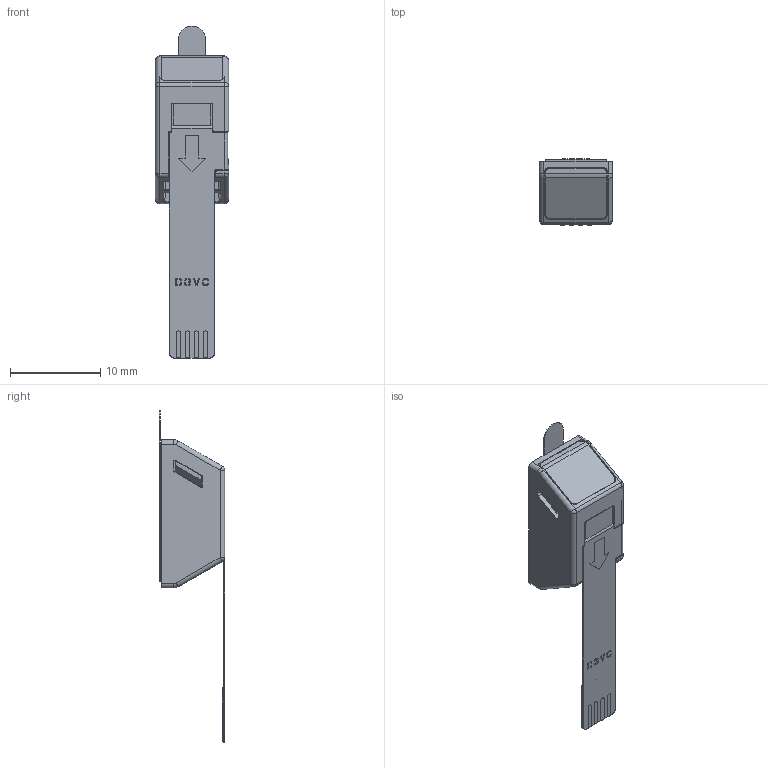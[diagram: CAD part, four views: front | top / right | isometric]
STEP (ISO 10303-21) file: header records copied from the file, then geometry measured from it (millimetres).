
FILE_DESCRIPTION((''),'2;1');
FILE_NAME('SOUNDSKIRT_MIC_ASM_ASM','2026-08-27T11:12:38',('ts'),(''),'CREO PARAMETRIC BY PTC INC, 2026092','CREO PARAMETRIC BY PTC INC, 2026092','');
FILE_SCHEMA(('AUTOMOTIVE_DESIGN { 1 0 10303 214 1 1 1 1 }'));
Products named in the file (19): SOUNDSKIRT_MIC_GASKET_711; SOUNDSKIRT_MIC_SILICON_202; SOUNDSKIRT_MIC_FPCA_FPC_108_1; SOUNDSKIRT_MIC_FPCA_FPC_108_2; SOUNDSKIRT_MIC_FPCA_FPC_108_ASM; SOUNDSKIRT_MIC_FPCA_MEMS_1_9; SOUNDSKIRT_MIC_FPCA_MEMS_2_20; SOUNDSKIRT_MIC_FPCA_SUS301_1_1; SOUNDSKIRT_MIC_FPCA_SUS301_2_1; SOUNDSKIRT_MIC_FPCA_SUS301_3_10; SOUNDSKIRT_MIC_FPCA_0402_1; SOUNDSKIRT_MIC_FPCA_BJ_1_1; SOUNDSKIRT_MIC_FPCA_ASM_60_ASM; SOUNDSKIRT_MIC_BJ_BJ_1; SOUNDSKIRT_MIC_BJ_TYW_1; SOUNDSKIRT_MIC_BJ_LXZ_5; SOUNDSKIRT_MIC_BJ_ASM_3_ASM; DIANPIAN; SOUNDSKIRT_MIC_ASM_ASM
Assembly tree (19 placements, depth 4):
  SOUNDSKIRT_MIC_ASM_ASM
    SOUNDSKIRT_MIC_GASKET_711
    SOUNDSKIRT_MIC_SILICON_202
    SOUNDSKIRT_MIC_FPCA_ASM_60_ASM
      SOUNDSKIRT_MIC_FPCA_FPC_108_ASM
        SOUNDSKIRT_MIC_FPCA_FPC_108_1
        SOUNDSKIRT_MIC_FPCA_FPC_108_2
      SOUNDSKIRT_MIC_FPCA_MEMS_1_9
      SOUNDSKIRT_MIC_FPCA_MEMS_2_20
      SOUNDSKIRT_MIC_FPCA_SUS301_1_1
      SOUNDSKIRT_MIC_FPCA_SUS301_2_1
      SOUNDSKIRT_MIC_FPCA_SUS301_3_10
      SOUNDSKIRT_MIC_FPCA_0402_1
      SOUNDSKIRT_MIC_FPCA_BJ_1_1
    SOUNDSKIRT_MIC_BJ_ASM_3_ASM
      SOUNDSKIRT_MIC_BJ_BJ_1  x2
      SOUNDSKIRT_MIC_BJ_TYW_1
      SOUNDSKIRT_MIC_BJ_LXZ_5
    DIANPIAN
Bounding box: 8.1 x 7.25 x 36.76 mm (x, y, z)
Volume: 700.3 mm3; surface area: 2708.4 mm2
Topology: 16 solids, 16 shells, 1812 faces, 5009 edges, 3261 vertices
Faces by surface type: cylinder 1116, plane 588, bspline 72, sphere 18, torus 14, cone 4
Entity records: 79487 total; most frequent: CARTESIAN_POINT 13272, DIRECTION 10566, ORIENTED_EDGE 9916, EDGE_CURVE 4958, PRESENTATION_STYLE_ASSIGNMENT 4809, STYLED_ITEM 4592, CURVE_STYLE 4456, AXIS2_PLACEMENT_3D 3985
